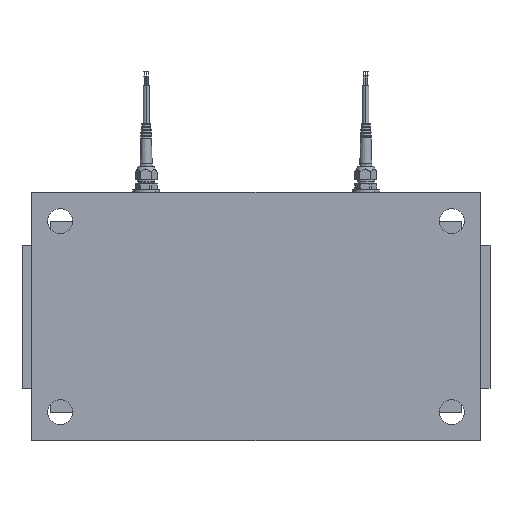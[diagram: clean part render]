
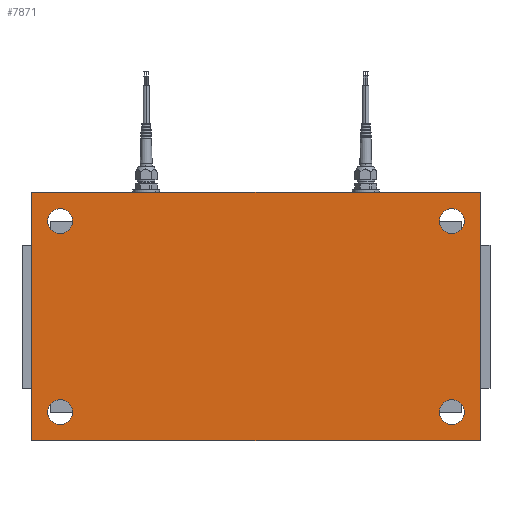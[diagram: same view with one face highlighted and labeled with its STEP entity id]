
A CAD part, front view. The second image highlights one B-rep face of the part: STEP entity #7871.
In plain terms, the highlighted planar face has unit normal (0, -1, 0).
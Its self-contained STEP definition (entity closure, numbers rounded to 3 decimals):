
#184 = AXIS2_PLACEMENT_3D ( 'NONE', #3437, #19875, #12239 ) ;
#218 = EDGE_CURVE ( 'NONE', #529, #1416, #3382, .T. ) ;
#529 = VERTEX_POINT ( 'NONE', #536 ) ;
#536 = CARTESIAN_POINT ( 'NONE',  ( 205., 0., 113. ) ) ;
#861 = VERTEX_POINT ( 'NONE', #8156 ) ;
#953 = AXIS2_PLACEMENT_3D ( 'NONE', #1876, #1984, #3406 ) ;
#971 = VECTOR ( 'NONE', #12181, 1000. ) ;
#1008 = LINE ( 'NONE', #10201, #971 ) ;
#1147 = FACE_BOUND ( 'NONE', #5515, .T. ) ;
#1416 = VERTEX_POINT ( 'NONE', #14333 ) ;
#1604 = ORIENTED_EDGE ( 'NONE', *, *, #16192, .T. ) ;
#1681 = ORIENTED_EDGE ( 'NONE', *, *, #6192, .F. ) ;
#1713 = CARTESIAN_POINT ( 'NONE',  ( -235., 0., -130. ) ) ;
#1720 = CIRCLE ( 'NONE', #9103, 13. ) ;
#1778 = EDGE_LOOP ( 'NONE', ( #16451, #1681, #9230, #9989 ) ) ;
#1876 = CARTESIAN_POINT ( 'NONE',  ( -205., 0., -100. ) ) ;
#1984 = DIRECTION ( 'NONE',  ( 0., 1., 0. ) ) ;
#2044 = AXIS2_PLACEMENT_3D ( 'NONE', #15431, #8540, #19602 ) ;
#2186 = ORIENTED_EDGE ( 'NONE', *, *, #218, .T. ) ;
#2481 = VERTEX_POINT ( 'NONE', #13623 ) ;
#2652 = VERTEX_POINT ( 'NONE', #1713 ) ;
#2676 = CARTESIAN_POINT ( 'NONE',  ( 0., 0., 0. ) ) ;
#2722 = CARTESIAN_POINT ( 'NONE',  ( -235., 0., -130. ) ) ;
#3382 = CIRCLE ( 'NONE', #13695, 13. ) ;
#3406 = DIRECTION ( 'NONE',  ( 0., 0., 1. ) ) ;
#3437 = CARTESIAN_POINT ( 'NONE',  ( 205., 0., 100. ) ) ;
#3443 = ORIENTED_EDGE ( 'NONE', *, *, #13826, .F. ) ;
#3479 = DIRECTION ( 'NONE',  ( 1., 0., 0. ) ) ;
#4191 = EDGE_CURVE ( 'NONE', #13191, #5841, #14177, .T. ) ;
#4782 = ORIENTED_EDGE ( 'NONE', *, *, #10708, .F. ) ;
#4912 = DIRECTION ( 'NONE',  ( 0., 0., -1. ) ) ;
#4923 = DIRECTION ( 'NONE',  ( 0., 1., 0. ) ) ;
#5515 = EDGE_LOOP ( 'NONE', ( #3443, #11906 ) ) ;
#5641 = EDGE_CURVE ( 'NONE', #18212, #8995, #6661, .T. ) ;
#5841 = VERTEX_POINT ( 'NONE', #7804 ) ;
#5947 = VERTEX_POINT ( 'NONE', #17184 ) ;
#6192 = EDGE_CURVE ( 'NONE', #5947, #2652, #16260, .T. ) ;
#6468 = CARTESIAN_POINT ( 'NONE',  ( 205., 0., -87. ) ) ;
#6661 = CIRCLE ( 'NONE', #17915, 13. ) ;
#7242 = AXIS2_PLACEMENT_3D ( 'NONE', #19086, #13050, #12943 ) ;
#7658 = VECTOR ( 'NONE', #3479, 1000. ) ;
#7662 = VERTEX_POINT ( 'NONE', #12016 ) ;
#7804 = CARTESIAN_POINT ( 'NONE',  ( -205., 0., -113. ) ) ;
#7871 = ADVANCED_FACE ( 'NONE', ( #8526, #16389, #8821, #19285, #1147 ), #11660, .T. ) ;
#8018 = CARTESIAN_POINT ( 'NONE',  ( -205., 0., 100. ) ) ;
#8031 = LINE ( 'NONE', #18910, #10305 ) ;
#8083 = DIRECTION ( 'NONE',  ( 0., 1., 0. ) ) ;
#8156 = CARTESIAN_POINT ( 'NONE',  ( 205., 0., -113. ) ) ;
#8526 = FACE_BOUND ( 'NONE', #17134, .T. ) ;
#8530 = CIRCLE ( 'NONE', #7242, 13. ) ;
#8540 = DIRECTION ( 'NONE',  ( 0., -1., 0. ) ) ;
#8567 = VECTOR ( 'NONE', #8864, 1000. ) ;
#8807 = CIRCLE ( 'NONE', #2044, 13. ) ;
#8821 = FACE_OUTER_BOUND ( 'NONE', #1778, .T. ) ;
#8864 = DIRECTION ( 'NONE',  ( -1., 0., 0. ) ) ;
#8995 = VERTEX_POINT ( 'NONE', #12739 ) ;
#9103 = AXIS2_PLACEMENT_3D ( 'NONE', #9405, #8083, #18771 ) ;
#9230 = ORIENTED_EDGE ( 'NONE', *, *, #11574, .F. ) ;
#9405 = CARTESIAN_POINT ( 'NONE',  ( -205., 0., -100. ) ) ;
#9681 = CARTESIAN_POINT ( 'NONE',  ( -205., 0., -87. ) ) ;
#9727 = LINE ( 'NONE', #14480, #7658 ) ;
#9820 = EDGE_CURVE ( 'NONE', #7662, #2481, #9727, .T. ) ;
#9989 = ORIENTED_EDGE ( 'NONE', *, *, #9820, .F. ) ;
#10140 = VERTEX_POINT ( 'NONE', #6468 ) ;
#10141 = EDGE_LOOP ( 'NONE', ( #11714, #12933 ) ) ;
#10142 = EDGE_CURVE ( 'NONE', #5841, #13191, #1720, .T. ) ;
#10201 = CARTESIAN_POINT ( 'NONE',  ( -235., 0., 130. ) ) ;
#10305 = VECTOR ( 'NONE', #11273, 1000. ) ;
#10708 = EDGE_CURVE ( 'NONE', #8995, #18212, #8807, .T. ) ;
#11179 = DIRECTION ( 'NONE',  ( 0., 0., -1. ) ) ;
#11273 = DIRECTION ( 'NONE',  ( 0., 0., -1. ) ) ;
#11574 = EDGE_CURVE ( 'NONE', #2481, #5947, #8031, .T. ) ;
#11660 = PLANE ( 'NONE',  #18787 ) ;
#11714 = ORIENTED_EDGE ( 'NONE', *, *, #4191, .T. ) ;
#11906 = ORIENTED_EDGE ( 'NONE', *, *, #15911, .F. ) ;
#12016 = CARTESIAN_POINT ( 'NONE',  ( -235., 0., 130. ) ) ;
#12181 = DIRECTION ( 'NONE',  ( 0., 0., 1. ) ) ;
#12239 = DIRECTION ( 'NONE',  ( 0., 0., -1. ) ) ;
#12739 = CARTESIAN_POINT ( 'NONE',  ( -205., 0., 113. ) ) ;
#12933 = ORIENTED_EDGE ( 'NONE', *, *, #10142, .T. ) ;
#12943 = DIRECTION ( 'NONE',  ( 0., 0., 1. ) ) ;
#13050 = DIRECTION ( 'NONE',  ( 0., -1., 0. ) ) ;
#13191 = VERTEX_POINT ( 'NONE', #9681 ) ;
#13623 = CARTESIAN_POINT ( 'NONE',  ( 235., 0., 130. ) ) ;
#13695 = AXIS2_PLACEMENT_3D ( 'NONE', #18906, #4923, #11179 ) ;
#13826 = EDGE_CURVE ( 'NONE', #10140, #861, #17496, .T. ) ;
#14177 = CIRCLE ( 'NONE', #953, 13. ) ;
#14333 = CARTESIAN_POINT ( 'NONE',  ( 205., 0., 87. ) ) ;
#14480 = CARTESIAN_POINT ( 'NONE',  ( -235., 0., 130. ) ) ;
#14781 = DIRECTION ( 'NONE',  ( 0., 0., -1. ) ) ;
#14881 = DIRECTION ( 'NONE',  ( 0., -1., 0. ) ) ;
#15431 = CARTESIAN_POINT ( 'NONE',  ( -205., 0., 100. ) ) ;
#15669 = DIRECTION ( 'NONE',  ( 0., -1., 0. ) ) ;
#15911 = EDGE_CURVE ( 'NONE', #861, #10140, #8530, .T. ) ;
#15948 = CIRCLE ( 'NONE', #184, 13. ) ;
#16192 = EDGE_CURVE ( 'NONE', #1416, #529, #15948, .T. ) ;
#16260 = LINE ( 'NONE', #2722, #8567 ) ;
#16389 = FACE_BOUND ( 'NONE', #10141, .T. ) ;
#16451 = ORIENTED_EDGE ( 'NONE', *, *, #18022, .F. ) ;
#17134 = EDGE_LOOP ( 'NONE', ( #4782, #17935 ) ) ;
#17184 = CARTESIAN_POINT ( 'NONE',  ( 235., 0., -130. ) ) ;
#17496 = CIRCLE ( 'NONE', #18784, 13. ) ;
#17915 = AXIS2_PLACEMENT_3D ( 'NONE', #8018, #18701, #4912 ) ;
#17935 = ORIENTED_EDGE ( 'NONE', *, *, #5641, .F. ) ;
#18022 = EDGE_CURVE ( 'NONE', #2652, #7662, #1008, .T. ) ;
#18212 = VERTEX_POINT ( 'NONE', #18815 ) ;
#18372 = DIRECTION ( 'NONE',  ( 0., 0., 1. ) ) ;
#18673 = CARTESIAN_POINT ( 'NONE',  ( 205., 0., -100. ) ) ;
#18701 = DIRECTION ( 'NONE',  ( 0., -1., 0. ) ) ;
#18771 = DIRECTION ( 'NONE',  ( 0., 0., 1. ) ) ;
#18784 = AXIS2_PLACEMENT_3D ( 'NONE', #18673, #15669, #18372 ) ;
#18787 = AXIS2_PLACEMENT_3D ( 'NONE', #2676, #14881, #14781 ) ;
#18815 = CARTESIAN_POINT ( 'NONE',  ( -205., 0., 87. ) ) ;
#18906 = CARTESIAN_POINT ( 'NONE',  ( 205., 0., 100. ) ) ;
#18910 = CARTESIAN_POINT ( 'NONE',  ( 235., 0., 130. ) ) ;
#19086 = CARTESIAN_POINT ( 'NONE',  ( 205., 0., -100. ) ) ;
#19285 = FACE_BOUND ( 'NONE', #19306, .T. ) ;
#19306 = EDGE_LOOP ( 'NONE', ( #2186, #1604 ) ) ;
#19602 = DIRECTION ( 'NONE',  ( 0., 0., -1. ) ) ;
#19875 = DIRECTION ( 'NONE',  ( 0., 1., 0. ) ) ;
